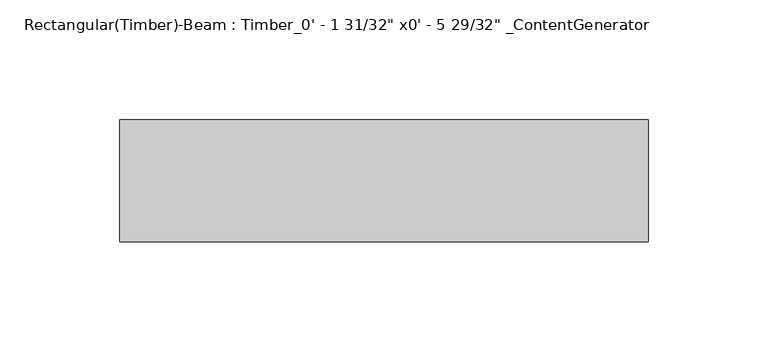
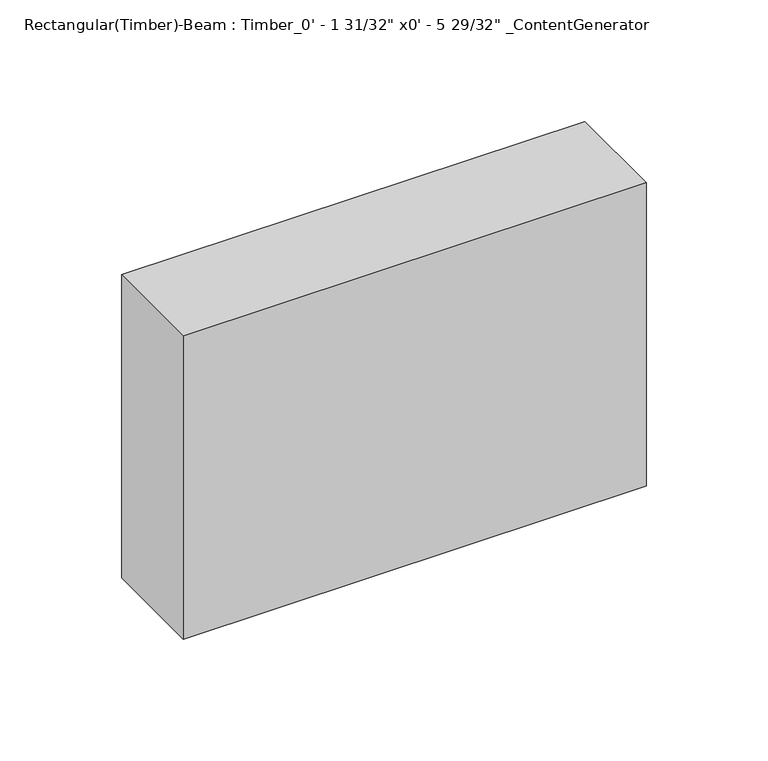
"""IFC4 building model written with IfcOpenShell, lengths in millimetres: beam geometry."""

from ifc_helpers import new_model, si_unit, frame, origin, place, context, project, spatial, polyline, outline, extrude, source, transform, mapped, element, save


def beam_98f1c117(model_context):
    return source(origin(), model_context, "Body", "SweptSolid", [
        extrude(outline(polyline([(110.0616664, 25.4), (110.0616664, -25.4), (-110.071667, -25.4), (-110.071667, 25.4), (110.0616664, 25.4)])), frame((0.0, 0.0, -76.2), z_axis=(0.0, 0.0, 1.0), x_axis=(1.0, 0.0, 0.0)), (0.0, 0.0, 1.0), 152.4),
    ])


if __name__ == "__main__":
    model = new_model("IFC4")
    model_context = context("Model", 3, world=origin())
    ifc_project = project(units=[si_unit("LENGTHUNIT", "METRE", prefix="MILLI")], contexts=[model_context])
    site = spatial("IfcSite", under=ifc_project)
    building = spatial("IfcBuilding", under=site)
    placement = place(None, origin())
    beam_shape = beam_98f1c117(model_context)
    element("IfcBeam", 1, ObjectType="Rectangular(Timber)-Beam : Timber_0' - 1 31/32\" x0' - 5 29/32\" _ContentGenerator", at=placement, inside=building, context=model_context, shape_type="MappedRepresentation", body=[
        mapped(beam_shape, transform((0.0, 0.0, 0.0), x_axis=(1.0, 0.0, 0.0), y_axis=(0.0, 1.0, 0.0), z_axis=(0.0, 0.0, 1.0))),
    ])
    save(model, "model.ifc")
